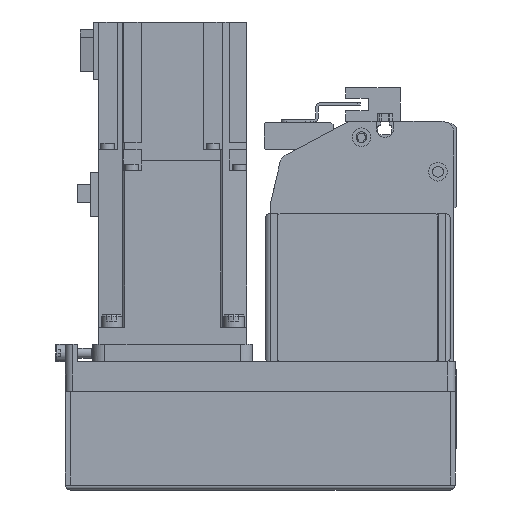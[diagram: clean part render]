
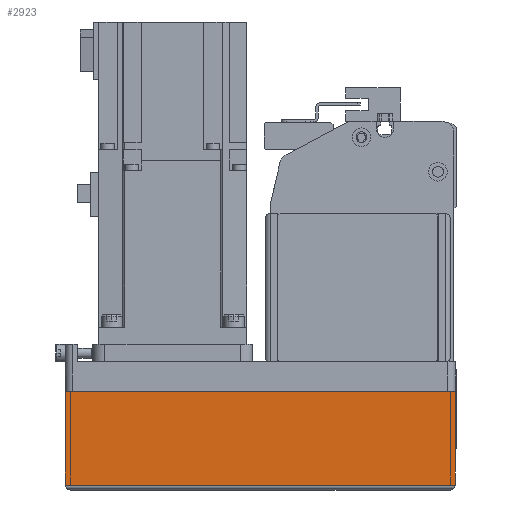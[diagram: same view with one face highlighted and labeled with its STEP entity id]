
A CAD part, left-side view. The second image highlights one B-rep face of the part: STEP entity #2923.
In plain terms, the highlighted planar face has unit normal (-1, 0, 0) as drawn and (0, -1, 0) by its records, which use the part's own axes.
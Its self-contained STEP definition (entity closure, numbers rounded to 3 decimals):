
#2923 = ADVANCED_FACE( '', ( #6063 ), #6064, .T. );
#6063 = FACE_OUTER_BOUND( '', #9246, .T. );
#6064 = PLANE( '', #9247 );
#9246 = EDGE_LOOP( '', ( #17387, #17388, #17389, #17390 ) );
#9247 = AXIS2_PLACEMENT_3D( '', #17391, #17392, #17393 );
#17387 = ORIENTED_EDGE( '', *, *, #20871, .F. );
#17388 = ORIENTED_EDGE( '', *, *, #20578, .F. );
#17389 = ORIENTED_EDGE( '', *, *, #21014, .T. );
#17390 = ORIENTED_EDGE( '', *, *, #20470, .T. );
#17391 = CARTESIAN_POINT( '', ( -158., -39., -12.1 ) );
#17392 = DIRECTION( '', ( 0., -1., 0. ) );
#17393 = DIRECTION( '', ( 0., 0., -1. ) );
#20470 = EDGE_CURVE( '', #25252, #25254, #25256, .T. );
#20578 = EDGE_CURVE( '', #25398, #23505, #25399, .T. );
#20871 = EDGE_CURVE( '', #23505, #25254, #25764, .T. );
#21014 = EDGE_CURVE( '', #25398, #25252, #25936, .T. );
#23505 = VERTEX_POINT( '', #29661 );
#25252 = VERTEX_POINT( '', #32125 );
#25254 = VERTEX_POINT( '', #32127 );
#25256 = LINE( '', #32129, #32130 );
#25398 = VERTEX_POINT( '', #32310 );
#25399 = LINE( '', #32311, #32312 );
#25764 = LINE( '', #32853, #32854 );
#25936 = LINE( '', #33078, #33079 );
#29661 = CARTESIAN_POINT( '', ( 0., -39., -12.1 ) );
#32125 = CARTESIAN_POINT( '', ( -158., -39., -50. ) );
#32127 = CARTESIAN_POINT( '', ( 0., -39., -50. ) );
#32129 = CARTESIAN_POINT( '', ( -158., -39., -50. ) );
#32130 = VECTOR( '', #36667, 1000. );
#32310 = CARTESIAN_POINT( '', ( -158., -39., -12.1 ) );
#32311 = CARTESIAN_POINT( '', ( -158., -39., -12.1 ) );
#32312 = VECTOR( '', #36793, 1000. );
#32853 = CARTESIAN_POINT( '', ( 0., -39., -12.1 ) );
#32854 = VECTOR( '', #37074, 1000. );
#33078 = CARTESIAN_POINT( '', ( -158., -39., -12.1 ) );
#33079 = VECTOR( '', #37202, 1000. );
#36667 = DIRECTION( '', ( 1., 0., 0. ) );
#36793 = DIRECTION( '', ( 1., 0., 0. ) );
#37074 = DIRECTION( '', ( 0., 0., -1. ) );
#37202 = DIRECTION( '', ( 0., 0., -1. ) );
